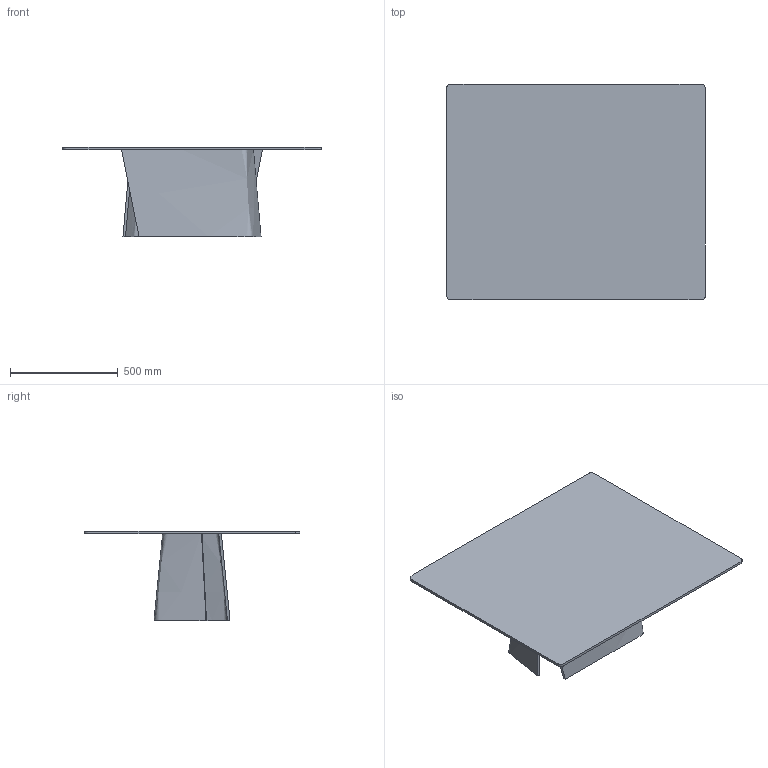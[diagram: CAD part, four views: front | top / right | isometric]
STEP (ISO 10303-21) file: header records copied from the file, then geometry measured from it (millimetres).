
FILE_DESCRIPTION(/* description */ (''),/* implementation_level */ '2;1');
FILE_NAME(/* name */ '500.401 - Accordo Tavolino rettangolare H42 120x100',/* time_stamp */ '2010-11-03T16:27:00+01:00',/* author */ (''),/* organization */ (''),/* preprocessor_version */ 'ST-DEVELOPER v10',/* originating_system */ '',/* authorisation */ '');
FILE_SCHEMA (('CONFIG_CONTROL_DESIGN'));
Length unit declared in the file: centimetre
Products named in the file (1): 1
Bounding box: 1200 x 1000 x 417 mm (x, y, z)
Volume: 22324147.6 mm3; surface area: 3656242.7 mm2
Topology: 3 solids, 3 shells, 18 faces, 36 edges, 24 vertices
Faces by surface type: bspline 12, plane 6
Entity records: 726 total; most frequent: CARTESIAN_POINT 424, ORIENTED_EDGE 72, EDGE_CURVE 36, VERTEX_POINT 24, ADVANCED_FACE 18, FACE_OUTER_BOUND 18, EDGE_LOOP 18, DIRECTION 10
